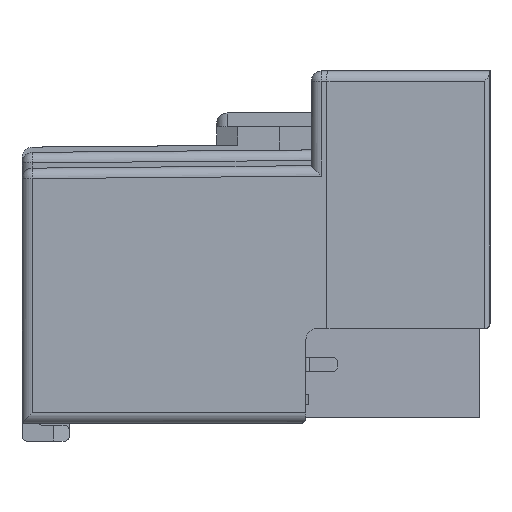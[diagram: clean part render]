
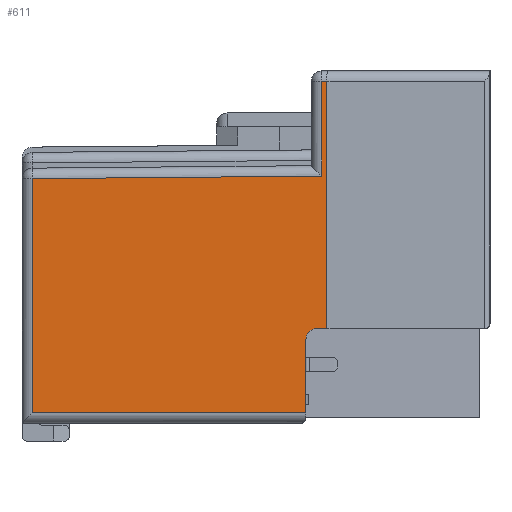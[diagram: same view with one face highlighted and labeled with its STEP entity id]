
A CAD part, left-side view. The second image highlights one B-rep face of the part: STEP entity #611.
In plain terms, the highlighted planar face has unit normal (-1, 0.009, 0).
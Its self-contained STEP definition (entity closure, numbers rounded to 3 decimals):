
#418=ELLIPSE('',#10343,1.,1.);
#611=ADVANCED_FACE('',(#1466),#1191,.T.);
#1191=PLANE('',#10344);
#1466=FACE_OUTER_BOUND('',#2348,.T.);
#2348=EDGE_LOOP('',(#2978,#2979,#2980,#2981,#2982,#2983,#2984,#2985,#2986));
#2978=ORIENTED_EDGE('',*,*,#6888,.T.);
#2979=ORIENTED_EDGE('',*,*,#6889,.T.);
#2980=ORIENTED_EDGE('',*,*,#6890,.T.);
#2981=ORIENTED_EDGE('',*,*,#6891,.T.);
#2982=ORIENTED_EDGE('',*,*,#6892,.T.);
#2983=ORIENTED_EDGE('',*,*,#6893,.T.);
#2984=ORIENTED_EDGE('',*,*,#6894,.F.);
#2985=ORIENTED_EDGE('',*,*,#6895,.T.);
#2986=ORIENTED_EDGE('',*,*,#6896,.T.);
#5970=VERTEX_POINT('',#14515);
#5971=VERTEX_POINT('',#14516);
#5972=VERTEX_POINT('',#14518);
#5973=VERTEX_POINT('',#14520);
#5974=VERTEX_POINT('',#14522);
#5975=VERTEX_POINT('',#14524);
#5976=VERTEX_POINT('',#14526);
#5977=VERTEX_POINT('',#14528);
#5978=VERTEX_POINT('',#14530);
#6888=EDGE_CURVE('',#5970,#5971,#8376,.T.);
#6889=EDGE_CURVE('',#5971,#5972,#8377,.T.);
#6890=EDGE_CURVE('',#5972,#5973,#8378,.T.);
#6891=EDGE_CURVE('',#5973,#5974,#8379,.T.);
#6892=EDGE_CURVE('',#5974,#5975,#8380,.T.);
#6893=EDGE_CURVE('',#5975,#5976,#8381,.T.);
#6894=EDGE_CURVE('',#5977,#5976,#8382,.T.);
#6895=EDGE_CURVE('',#5977,#5978,#418,.T.);
#6896=EDGE_CURVE('',#5978,#5970,#8383,.T.);
#8376=LINE('',#14514,#9374);
#8377=LINE('',#14517,#9375);
#8378=LINE('',#14519,#9376);
#8379=LINE('',#14521,#9377);
#8380=LINE('',#14523,#9378);
#8381=LINE('',#14525,#9379);
#8382=LINE('',#14527,#9380);
#8383=LINE('',#14531,#9381);
#9374=VECTOR('',#11421,1.);
#9375=VECTOR('',#11422,1.);
#9376=VECTOR('',#11423,1.);
#9377=VECTOR('',#11424,1.);
#9378=VECTOR('',#11425,1.);
#9379=VECTOR('',#11426,1.);
#9380=VECTOR('',#11427,1.);
#9381=VECTOR('',#11430,1.);
#10343=AXIS2_PLACEMENT_3D('',#14529,#11428,#11429);
#10344=AXIS2_PLACEMENT_3D('',#14532,#11431,#11432);
#11421=DIRECTION('',(0.,0.,1.));
#11422=DIRECTION('',(0.009,1.,0.));
#11423=DIRECTION('',(0.,0.,-1.));
#11424=DIRECTION('',(0.009,1.,-0.009));
#11425=DIRECTION('',(0.,0.,-1.));
#11426=DIRECTION('',(-0.009,-1.,0.));
#11427=DIRECTION('',(0.,0.,-1.));
#11428=DIRECTION('',(1.,-0.009,0.));
#11429=DIRECTION('',(-0.009,-1.,0.));
#11430=DIRECTION('',(-0.009,-1.,0.));
#11431=DIRECTION('',(-1.,0.009,0.));
#11432=DIRECTION('',(-0.009,-1.,0.));
#14514=CARTESIAN_POINT('',(-54.,-29.,-17.5));
#14515=CARTESIAN_POINT('',(-54.,-29.,-17.5));
#14516=CARTESIAN_POINT('',(-54.,-29.,6.));
#14517=CARTESIAN_POINT('',(-54.,-29.,6.));
#14518=CARTESIAN_POINT('',(-53.996,-28.491,6.));
#14519=CARTESIAN_POINT('',(-53.996,-28.491,-17.5));
#14520=CARTESIAN_POINT('',(-53.996,-28.491,-3.004));
#14521=CARTESIAN_POINT('',(-53.747,-0.009,-3.253));
#14522=CARTESIAN_POINT('',(-53.756,-0.991,-3.244));
#14523=CARTESIAN_POINT('',(-53.756,-0.991,-26.5));
#14524=CARTESIAN_POINT('',(-53.756,-0.991,-25.5));
#14525=CARTESIAN_POINT('',(-53.978,-26.5,-25.5));
#14526=CARTESIAN_POINT('',(-53.983,-27.,-25.5));
#14527=CARTESIAN_POINT('',(-53.983,-27.,-17.5));
#14528=CARTESIAN_POINT('',(-53.983,-27.,-18.5));
#14529=CARTESIAN_POINT('',(-53.991,-28.,-18.5));
#14530=CARTESIAN_POINT('',(-53.991,-28.,-17.5));
#14531=CARTESIAN_POINT('',(-54.,-29.,-17.5));
#14532=CARTESIAN_POINT('',(-54.,-29.,-17.5));
